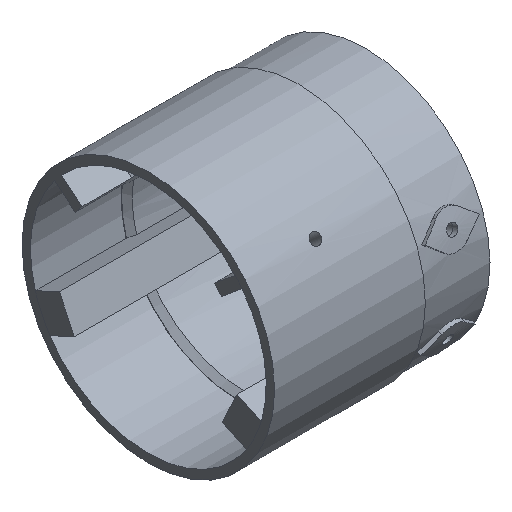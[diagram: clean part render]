
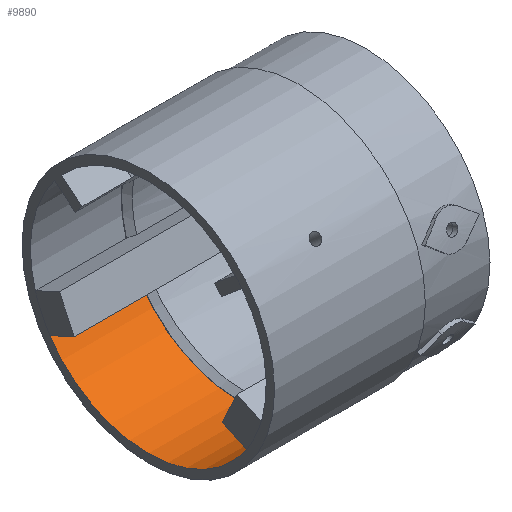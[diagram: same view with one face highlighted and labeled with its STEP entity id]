
A CAD part, isometric view. The second image highlights one B-rep face of the part: STEP entity #9890.
In plain terms, the highlighted cylindrical face has radius 17.6 mm (diameter 35.2 mm), a partial arc.
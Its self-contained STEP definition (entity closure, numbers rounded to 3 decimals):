
#43 = PLANE('',#44);
#44 = AXIS2_PLACEMENT_3D('',#45,#46,#47);
#45 = CARTESIAN_POINT('',(347.5,0.,0.));
#46 = DIRECTION('',(1.,0.,0.));
#47 = DIRECTION('',(-0.,0.,1.));
#2212 = VERTEX_POINT('',#2213);
#2213 = CARTESIAN_POINT('',(347.5,14.677,-9.713
    ));
#2227 = PLANE('',#2228);
#2228 = AXIS2_PLACEMENT_3D('',#2229,#2230,#2231);
#2229 = CARTESIAN_POINT('',(347.5,11.046,-8.019
    ));
#2230 = DIRECTION('',(0.,0.423,0.906));
#2231 = DIRECTION('',(1.,0.,0.));
#2264 = EDGE_CURVE('',#2212,#2265,#2267,.T.);
#2265 = VERTEX_POINT('',#2266);
#2266 = CARTESIAN_POINT('',(361.1,14.677,-9.713));
#2267 = SURFACE_CURVE('',#2268,(#2272,#2278),.PCURVE_S1.);
#2268 = LINE('',#2269,#2270);
#2269 = CARTESIAN_POINT('',(346.5,14.677,-9.713));
#2270 = VECTOR('',#2271,1.);
#2271 = DIRECTION('',(1.,0.,0.));
#2272 = PCURVE('',#2227,#2273);
#2273 = DEFINITIONAL_REPRESENTATION('',(#2274),#2277);
#2274 = B_SPLINE_CURVE_WITH_KNOTS('',1,(#2275,#2276),.UNSPECIFIED.,.F.,
  .F.,(2,2),(1.,14.6),.PIECEWISE_BEZIER_KNOTS.);
#2275 = CARTESIAN_POINT('',(0.,4.007));
#2276 = CARTESIAN_POINT('',(13.6,4.007));
#2277 = ( GEOMETRIC_REPRESENTATION_CONTEXT(2) 
PARAMETRIC_REPRESENTATION_CONTEXT() REPRESENTATION_CONTEXT('2D SPACE',''
  ) );
#2278 = PCURVE('',#2279,#2284);
#2279 = CYLINDRICAL_SURFACE('',#2280,17.6);
#2280 = AXIS2_PLACEMENT_3D('',#2281,#2282,#2283);
#2281 = CARTESIAN_POINT('',(346.5,0.,0.));
#2282 = DIRECTION('',(1.,0.,0.));
#2283 = DIRECTION('',(-0.,0.,1.));
#2284 = DEFINITIONAL_REPRESENTATION('',(#2285),#2288);
#2285 = B_SPLINE_CURVE_WITH_KNOTS('',1,(#2286,#2287),.UNSPECIFIED.,.F.,
  .F.,(2,2),(1.,14.6),.PIECEWISE_BEZIER_KNOTS.);
#2286 = CARTESIAN_POINT('',(4.128,1.));
#2287 = CARTESIAN_POINT('',(4.128,14.6));
#2288 = ( GEOMETRIC_REPRESENTATION_CONTEXT(2) 
PARAMETRIC_REPRESENTATION_CONTEXT() REPRESENTATION_CONTEXT('2D SPACE',''
  ) );
#2406 = PLANE('',#2407);
#2407 = AXIS2_PLACEMENT_3D('',#2408,#2409,#2410);
#2408 = CARTESIAN_POINT('',(361.1,0.,0.));
#2409 = DIRECTION('',(1.,0.,0.));
#2410 = DIRECTION('',(-0.,0.,1.));
#2774 = PLANE('',#2775);
#2775 = AXIS2_PLACEMENT_3D('',#2776,#2777,#2778);
#2776 = CARTESIAN_POINT('',(347.5,-11.046,
    -8.019));
#2777 = DIRECTION('',(0.,0.423,-0.906));
#2778 = DIRECTION('',(1.,0.,0.));
#2789 = EDGE_CURVE('',#2790,#2792,#2794,.T.);
#2790 = VERTEX_POINT('',#2791);
#2791 = CARTESIAN_POINT('',(347.5,-14.677,
    -9.713));
#2792 = VERTEX_POINT('',#2793);
#2793 = CARTESIAN_POINT('',(361.1,-14.677,-9.713));
#2794 = SURFACE_CURVE('',#2795,(#2799,#2805),.PCURVE_S1.);
#2795 = LINE('',#2796,#2797);
#2796 = CARTESIAN_POINT('',(346.5,-14.677,-9.713));
#2797 = VECTOR('',#2798,1.);
#2798 = DIRECTION('',(1.,0.,0.));
#2799 = PCURVE('',#2774,#2800);
#2800 = DEFINITIONAL_REPRESENTATION('',(#2801),#2804);
#2801 = B_SPLINE_CURVE_WITH_KNOTS('',1,(#2802,#2803),.UNSPECIFIED.,.F.,
  .F.,(2,2),(1.,14.6),.PIECEWISE_BEZIER_KNOTS.);
#2802 = CARTESIAN_POINT('',(0.,4.007));
#2803 = CARTESIAN_POINT('',(13.6,4.007));
#2804 = ( GEOMETRIC_REPRESENTATION_CONTEXT(2) 
PARAMETRIC_REPRESENTATION_CONTEXT() REPRESENTATION_CONTEXT('2D SPACE',''
  ) );
#2805 = PCURVE('',#2279,#2806);
#2806 = DEFINITIONAL_REPRESENTATION('',(#2807),#2810);
#2807 = B_SPLINE_CURVE_WITH_KNOTS('',1,(#2808,#2809),.UNSPECIFIED.,.F.,
  .F.,(2,2),(1.,14.6),.PIECEWISE_BEZIER_KNOTS.);
#2808 = CARTESIAN_POINT('',(2.155,1.));
#2809 = CARTESIAN_POINT('',(2.155,14.6));
#2810 = ( GEOMETRIC_REPRESENTATION_CONTEXT(2) 
PARAMETRIC_REPRESENTATION_CONTEXT() REPRESENTATION_CONTEXT('2D SPACE',''
  ) );
#9869 = EDGE_CURVE('',#2792,#2265,#9870,.T.);
#9870 = SURFACE_CURVE('',#9871,(#9876,#9883),.PCURVE_S1.);
#9871 = CIRCLE('',#9872,17.6);
#9872 = AXIS2_PLACEMENT_3D('',#9873,#9874,#9875);
#9873 = CARTESIAN_POINT('',(361.1,0.,0.));
#9874 = DIRECTION('',(1.,0.,0.));
#9875 = DIRECTION('',(-0.,0.,1.));
#9876 = PCURVE('',#2406,#9877);
#9877 = DEFINITIONAL_REPRESENTATION('',(#9878),#9882);
#9878 = CIRCLE('',#9879,17.6);
#9879 = AXIS2_PLACEMENT_2D('',#9880,#9881);
#9880 = CARTESIAN_POINT('',(0.,0.));
#9881 = DIRECTION('',(1.,0.));
#9882 = ( GEOMETRIC_REPRESENTATION_CONTEXT(2) 
PARAMETRIC_REPRESENTATION_CONTEXT() REPRESENTATION_CONTEXT('2D SPACE',''
  ) );
#9883 = PCURVE('',#2279,#9884);
#9884 = DEFINITIONAL_REPRESENTATION('',(#9885),#9889);
#9885 = LINE('',#9886,#9887);
#9886 = CARTESIAN_POINT('',(0.,14.6));
#9887 = VECTOR('',#9888,1.);
#9888 = DIRECTION('',(1.,0.));
#9889 = ( GEOMETRIC_REPRESENTATION_CONTEXT(2) 
PARAMETRIC_REPRESENTATION_CONTEXT() REPRESENTATION_CONTEXT('2D SPACE',''
  ) );
#9890 = ADVANCED_FACE('',(#9891),#2279,.F.);
#9891 = FACE_BOUND('',#9892,.F.);
#9892 = EDGE_LOOP('',(#9893,#9894,#9916,#9917));
#9893 = ORIENTED_EDGE('',*,*,#2789,.F.);
#9894 = ORIENTED_EDGE('',*,*,#9895,.T.);
#9895 = EDGE_CURVE('',#2790,#2212,#9896,.T.);
#9896 = SURFACE_CURVE('',#9897,(#9902,#9909),.PCURVE_S1.);
#9897 = CIRCLE('',#9898,17.6);
#9898 = AXIS2_PLACEMENT_3D('',#9899,#9900,#9901);
#9899 = CARTESIAN_POINT('',(347.5,0.,0.));
#9900 = DIRECTION('',(1.,0.,0.));
#9901 = DIRECTION('',(-0.,0.,1.));
#9902 = PCURVE('',#2279,#9903);
#9903 = DEFINITIONAL_REPRESENTATION('',(#9904),#9908);
#9904 = LINE('',#9905,#9906);
#9905 = CARTESIAN_POINT('',(0.,1.));
#9906 = VECTOR('',#9907,1.);
#9907 = DIRECTION('',(1.,0.));
#9908 = ( GEOMETRIC_REPRESENTATION_CONTEXT(2) 
PARAMETRIC_REPRESENTATION_CONTEXT() REPRESENTATION_CONTEXT('2D SPACE',''
  ) );
#9909 = PCURVE('',#43,#9910);
#9910 = DEFINITIONAL_REPRESENTATION('',(#9911),#9915);
#9911 = CIRCLE('',#9912,17.6);
#9912 = AXIS2_PLACEMENT_2D('',#9913,#9914);
#9913 = CARTESIAN_POINT('',(0.,0.));
#9914 = DIRECTION('',(1.,0.));
#9915 = ( GEOMETRIC_REPRESENTATION_CONTEXT(2) 
PARAMETRIC_REPRESENTATION_CONTEXT() REPRESENTATION_CONTEXT('2D SPACE',''
  ) );
#9916 = ORIENTED_EDGE('',*,*,#2264,.T.);
#9917 = ORIENTED_EDGE('',*,*,#9869,.F.);
